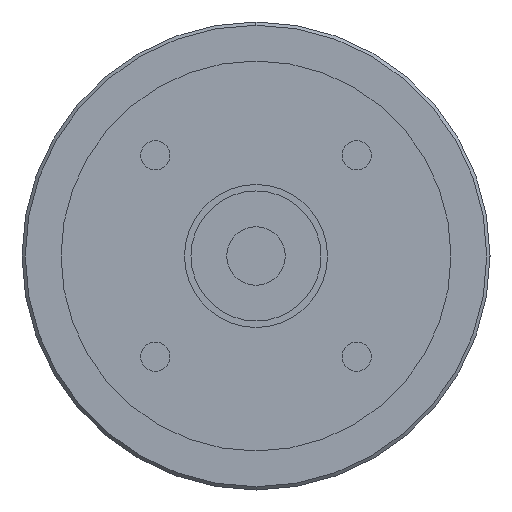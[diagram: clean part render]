
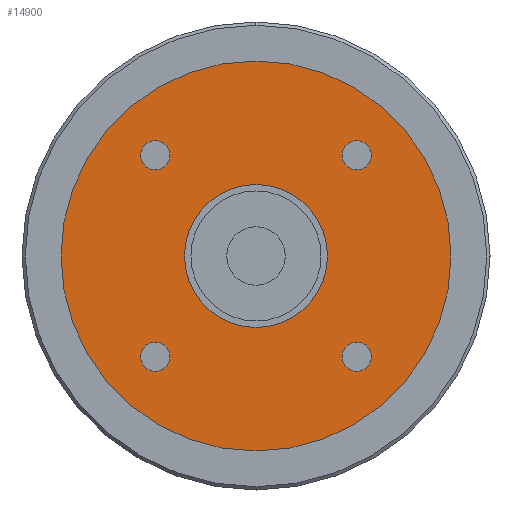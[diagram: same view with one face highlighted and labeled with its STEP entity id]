
A CAD part, left-side view. The second image highlights one B-rep face of the part: STEP entity #14900.
In plain terms, the highlighted planar face has unit normal (-1, 0, 0) as drawn and (0, 0, -1) by its records, which use the part's own axes.
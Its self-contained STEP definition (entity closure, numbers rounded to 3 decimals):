
#11930=CARTESIAN_POINT('',(15.493,-13.243,-91.));
#11940=VERTEX_POINT('',#11930);
#12120=CARTESIAN_POINT('',(15.493,-17.743,-91.));
#12130=VERTEX_POINT('',#12120);
#12160=CARTESIAN_POINT('',(15.493,-15.493,-91.));
#12170=DIRECTION('',(0.,0.,-1.));
#12180=DIRECTION('',(1.,0.,0.));
#12190=AXIS2_PLACEMENT_3D('',#12160,#12170,#12180);
#12200=CIRCLE('',#12190,2.25);
#12210=CARTESIAN_POINT('',(17.743,-15.493,-91.));
#12220=VERTEX_POINT('',#12210);
#12230=EDGE_CURVE('',#12220,#12130,#12200,.T.);
#12250=EDGE_CURVE('',#11940,#12220,#12200,.T.);
#12350=CARTESIAN_POINT('',(0.,0.,
-91.));
#12360=DIRECTION('',(0.,0.,1.));
#12370=DIRECTION('',(0.,-1.,0.));
#12380=AXIS2_PLACEMENT_3D('',#12350,#12360,#12370);
#12390=CIRCLE('',#12380,11.);
#12400=CARTESIAN_POINT('',(0.,-11.,-91.));
#12410=VERTEX_POINT('',#12400);
#12420=CARTESIAN_POINT('',(11.,0.,-91.));
#12430=VERTEX_POINT('',#12420);
#12440=EDGE_CURVE('',#12410,#12430,#12390,.T.);
#12670=CARTESIAN_POINT('',(-11.,0.,-91.));
#12680=VERTEX_POINT('',#12670);
#12710=EDGE_CURVE('',#12680,#12410,#12390,.T.);
#13830=CARTESIAN_POINT('',(30.,0.,-91.));
#13840=VERTEX_POINT('',#13830);
#13870=CARTESIAN_POINT('',(0.,0.,
-91.));
#13880=DIRECTION('',(0.,0.,1.));
#13890=DIRECTION('',(0.,-1.,0.));
#13900=AXIS2_PLACEMENT_3D('',#13870,#13880,#13890);
#13910=CIRCLE('',#13900,30.);
#13920=CARTESIAN_POINT('',(0.,-30.,-91.));
#13930=VERTEX_POINT('',#13920);
#13940=EDGE_CURVE('',#13930,#13840,#13910,.T.);
#13960=CARTESIAN_POINT('',(-30.,0.,-91.));
#13970=VERTEX_POINT('',#13960);
#13980=EDGE_CURVE('',#13970,#13930,#13910,.T.);
#14100=CARTESIAN_POINT('',(0.,0.,
-91.));
#14110=DIRECTION('',(0.,0.,1.));
#14120=DIRECTION('',(-1.,0.,0.));
#14130=AXIS2_PLACEMENT_3D('',#14100,#14110,#14120);
#14140=PLANE('',#14130);
#14150=CARTESIAN_POINT('',(15.493,15.493,-91.));
#14160=DIRECTION('',(0.,0.,-1.));
#14170=DIRECTION('',(0.,1.,0.));
#14180=AXIS2_PLACEMENT_3D('',#14150,#14160,#14170);
#14190=CIRCLE('',#14180,2.25);
#14200=CARTESIAN_POINT('',(15.493,17.743,-91.));
#14210=VERTEX_POINT('',#14200);
#14220=CARTESIAN_POINT('',(17.743,15.493,-91.));
#14230=VERTEX_POINT('',#14220);
#14240=EDGE_CURVE('',#14210,#14230,#14190,.T.);
#14250=ORIENTED_EDGE('',*,*,#14240,.F.);
#14260=CARTESIAN_POINT('',(13.243,15.493,-91.));
#14270=VERTEX_POINT('',#14260);
#14280=EDGE_CURVE('',#14230,#14270,#14190,.T.);
#14290=ORIENTED_EDGE('',*,*,#14280,.F.);
#14300=EDGE_CURVE('',#14270,#14210,#14190,.T.);
#14310=ORIENTED_EDGE('',*,*,#14300,.F.);
#14320=EDGE_LOOP('',(#14310,#14290,#14250));
#14330=FACE_BOUND('',#14320,.T.);
#14340=CARTESIAN_POINT('',(-15.493,15.493,-91.));
#14350=DIRECTION('',(0.,0.,-1.));
#14360=DIRECTION('',(-1.,0.,0.));
#14370=AXIS2_PLACEMENT_3D('',#14340,#14350,#14360);
#14380=CIRCLE('',#14370,2.25);
#14390=CARTESIAN_POINT('',(-17.743,15.493,-91.));
#14400=VERTEX_POINT('',#14390);
#14410=CARTESIAN_POINT('',(-15.493,17.743,-91.));
#14420=VERTEX_POINT('',#14410);
#14430=EDGE_CURVE('',#14400,#14420,#14380,.T.);
#14440=ORIENTED_EDGE('',*,*,#14430,.F.);
#14450=CARTESIAN_POINT('',(-15.493,13.243,-91.));
#14460=VERTEX_POINT('',#14450);
#14470=EDGE_CURVE('',#14420,#14460,#14380,.T.);
#14480=ORIENTED_EDGE('',*,*,#14470,.F.);
#14490=EDGE_CURVE('',#14460,#14400,#14380,.T.);
#14500=ORIENTED_EDGE('',*,*,#14490,.F.);
#14510=EDGE_LOOP('',(#14500,#14480,#14440));
#14520=FACE_BOUND('',#14510,.T.);
#14530=CARTESIAN_POINT('',(-15.493,-15.493,-91.));
#14540=DIRECTION('',(0.,0.,-1.));
#14550=DIRECTION('',(0.,-1.,0.));
#14560=AXIS2_PLACEMENT_3D('',#14530,#14540,#14550);
#14570=CIRCLE('',#14560,2.25);
#14580=CARTESIAN_POINT('',(-15.493,-17.743,-91.));
#14590=VERTEX_POINT('',#14580);
#14600=CARTESIAN_POINT('',(-17.743,-15.493,-91.));
#14610=VERTEX_POINT('',#14600);
#14620=EDGE_CURVE('',#14590,#14610,#14570,.T.);
#14630=ORIENTED_EDGE('',*,*,#14620,.F.);
#14640=CARTESIAN_POINT('',(-13.243,-15.493,-91.));
#14650=VERTEX_POINT('',#14640);
#14660=EDGE_CURVE('',#14610,#14650,#14570,.T.);
#14670=ORIENTED_EDGE('',*,*,#14660,.F.);
#14680=EDGE_CURVE('',#14650,#14590,#14570,.T.);
#14690=ORIENTED_EDGE('',*,*,#14680,.F.);
#14700=EDGE_LOOP('',(#14690,#14670,#14630));
#14710=FACE_BOUND('',#14700,.T.);
#14720=EDGE_CURVE('',#12430,#12680,#12390,.T.);
#14730=ORIENTED_EDGE('',*,*,#14720,.T.);
#14740=ORIENTED_EDGE('',*,*,#12440,.T.);
#14750=ORIENTED_EDGE('',*,*,#12710,.T.);
#14760=EDGE_LOOP('',(#14750,#14740,#14730));
#14770=FACE_BOUND('',#14760,.T.);
#14780=ORIENTED_EDGE('',*,*,#12230,.F.);
#14790=EDGE_CURVE('',#12130,#11940,#12200,.T.);
#14800=ORIENTED_EDGE('',*,*,#14790,.F.);
#14810=ORIENTED_EDGE('',*,*,#12250,.F.);
#14820=EDGE_LOOP('',(#14810,#14800,#14780));
#14830=FACE_BOUND('',#14820,.T.);
#14840=ORIENTED_EDGE('',*,*,#13940,.F.);
#14850=EDGE_CURVE('',#13840,#13970,#13910,.T.);
#14860=ORIENTED_EDGE('',*,*,#14850,.F.);
#14870=ORIENTED_EDGE('',*,*,#13980,.F.);
#14880=EDGE_LOOP('',(#14870,#14860,#14840));
#14890=FACE_OUTER_BOUND('',#14880,.T.);
#14900=ADVANCED_FACE('',(#14330,#14520,#14710,#14770,#14830,#14890),
#14140,.F.);
